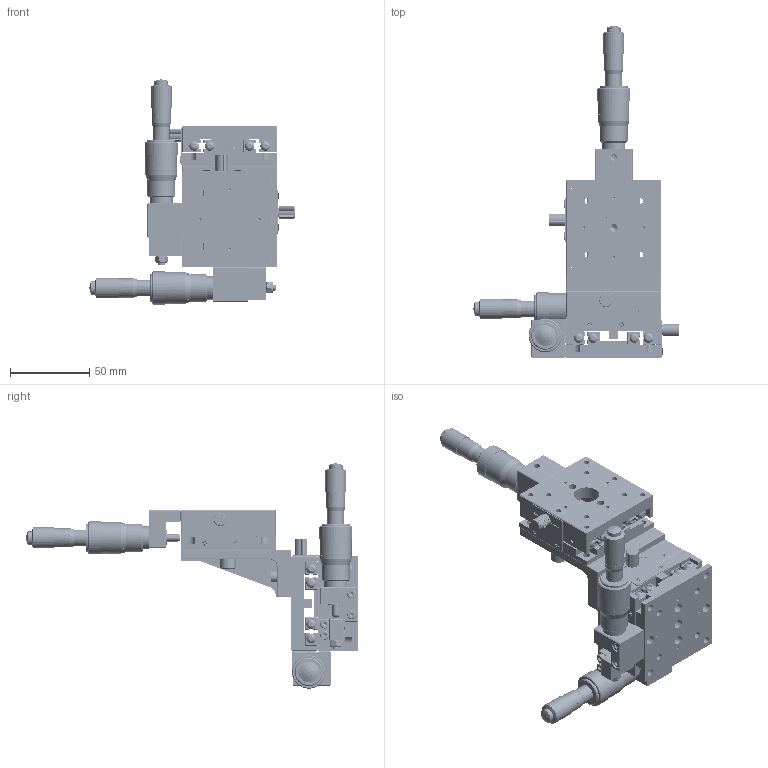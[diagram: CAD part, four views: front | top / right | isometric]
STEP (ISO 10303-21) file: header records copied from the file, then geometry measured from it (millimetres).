
FILE_DESCRIPTION (( 'STEP AP203' ), '1' );
FILE_NAME ('M-STSS60XYZ-05P.STEP', '2019-01-24T05:28:53', ( '' ), ( '' ), 'SwSTEP 2.0', 'SolidWorks 2016', '' );
FILE_SCHEMA (( 'CONFIG_CONTROL_DESIGN' ));
Length unit declared in the file: millimetre
Products named in the file (32): socket head cap screw_am_B18.3.1M - 4 x 0.7 x 16 Hex SHCS -- 16NHX; MER-13P-主體-後管; TS60頂點座; TC60底板(Z軸); 分厘卡墊環; TS-60-1; ψ7.5X11.5L; TC60面板(Z軸); MER-13P-主體-前管; socket set screw flat point_am_B18.3.6M - M3 x 0.5 x 3 Hex Socket Flat Pt. SS --N; M3皿頭; TC-60-1; socket head cap screw_am_B18.3.1M - 3 x 0.5 x 10 Hex SHCS -- 10NHX; socket head cap screw_am_B18.3.1M - 3 x 0.5 x 20 Hex SHCS -- 20NHX; M3圓頭; 中推-TC60(Z軸); M-STSS60XY-05P; socket head cap screw_am_B18.3.1M - 3 x 0.5 x 12 Hex SHCS -- 12NHX; 固定片2; socket set screw flat point_am; STL-60; prevailing torque hex nut_am_AM-M4-N; TS60底板; M3x0.5P無沉頭; ψ2-6L; socket set screw flat point_am_B18.3.6M - M4 x 0.7 x 20 Hex Socket Flat Pt. SS --N; TS60面板; STCS60X-05P(Z軸); socket head cap screw_am_B18.3.1M - 6 x 1 x 10 Hex SHCS -- 10NHX; TS60中板; TS60側推分厘卡座-P; M-STSS60XYZ-05P
Assembly tree (115 placements, depth 3):
  M-STSS60XYZ-05P
    M-STSS60XY-05P
      ψ7.5X11.5L  x2
      M3皿頭  x4
      M3圓頭  x16
      固定片2  x2
      TS60底板
      TS60面板
      TS60側推分厘卡座-P  x2
      TS60頂點座  x2
      TS-60-1  x8
      socket set screw flat point_am_B18.3.6M - M3 x 0.5 x 3 Hex Socket Flat Pt. SS --N  x12
      socket head cap screw_am_B18.3.1M - 3 x 0.5 x 20 Hex SHCS -- 20NHX  x4
      socket head cap screw_am_B18.3.1M - 3 x 0.5 x 12 Hex SHCS -- 12NHX  x4
      prevailing torque hex nut_am_AM-M4-N  x2
      socket set screw flat point_am_B18.3.6M - M4 x 0.7 x 20 Hex Socket Flat Pt. SS --N  x2
      TS60中板
      MER-13P-主體-後管  x2
      分厘卡墊環  x2
      MER-13P-主體-前管  x2
      socket head cap screw_am_B18.3.1M - 3 x 0.5 x 10 Hex SHCS -- 10NHX  x2
    STL-60
    ψ2-6L  x6
    socket head cap screw_am_B18.3.1M - 6 x 1 x 10 Hex SHCS -- 10NHX  x2
    socket head cap screw_am_B18.3.1M - 4 x 0.7 x 16 Hex SHCS -- 16NHX  x2
    STCS60X-05P(Z軸)
      ψ7.5X11.5L
      M3皿頭  x2
      TC60底板(Z軸)
      TC60面板(Z軸)
      TC-60-1  x4
      M3圓頭  x8
      固定片2
      中推-TC60(Z軸)
      socket head cap screw_am_B18.3.1M - 3 x 0.5 x 20 Hex SHCS -- 20NHX  x2
      socket set screw flat point_am
      M3x0.5P無沉頭  x6
      MER-13P-主體-前管
      MER-13P-主體-後管
      分厘卡墊環
Bounding box: 129.55 x 209.5 x 142.23 mm (x, y, z)
Volume: 320483.4 mm3; surface area: 162139.3 mm2
Topology: 113 solids, 113 shells, 8744 faces, 22470 edges, 14308 vertices
Faces by surface type: plane 3766, bspline 2163, cylinder 1725, cone 952, torus 90, sphere 48
Entity records: 171233 total; most frequent: CARTESIAN_POINT 87825, ORIENTED_EDGE 17354, DIRECTION 14016, EDGE_CURVE 8677, VERTEX_POINT 5610, AXIS2_PLACEMENT_3D 5236, EDGE_LOOP 3935, LINE 3544
